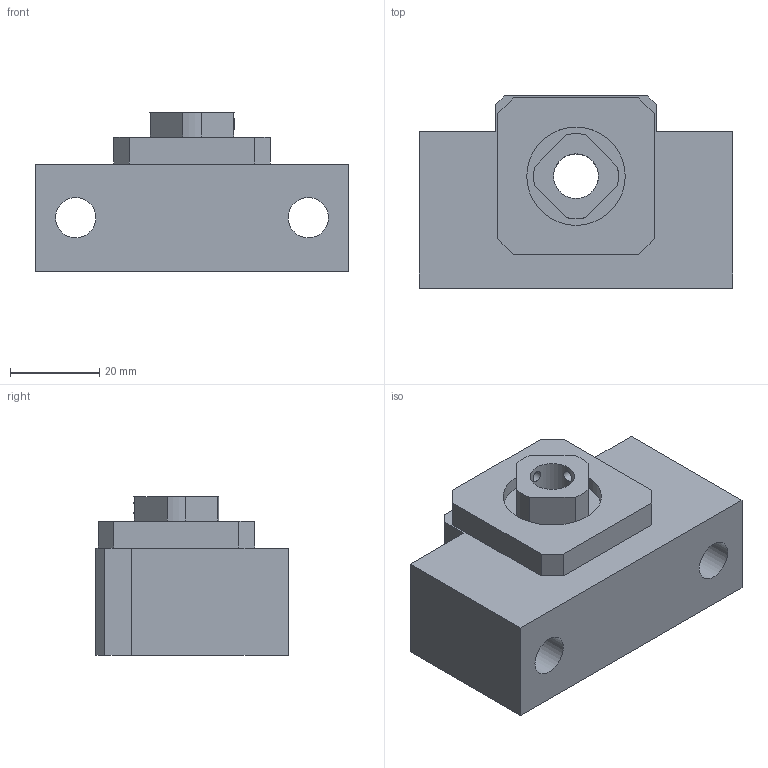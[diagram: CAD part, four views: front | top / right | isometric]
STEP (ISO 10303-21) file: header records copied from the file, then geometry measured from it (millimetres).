
FILE_DESCRIPTION(/* description */ (''),/* implementation_level */ '2;1');
FILE_NAME(/* name */ 'C:\Users\tenki620635\Desktop\官網\圖面\軸承座\3D\setp檔\AK10.stp',/* time_stamp */ '2020-12-18T18:31:38+08:00',/* author */ ('tenki620635'),/* organization */ (''),/* preprocessor_version */ 'ST-DEVELOPER v15.2',/* originating_system */ 'Autodesk Inventor 2014',/* authorisation */ '');
FILE_SCHEMA (('AUTOMOTIVE_DESIGN { 1 0 10303 214 3 1 1 }'));
Length unit declared in the file: millimetre
Products named in the file (1): AK10
Bounding box: 70 x 43 x 35.5 mm (x, y, z)
Volume: 64135.3 mm3; surface area: 15684.6 mm2
Topology: 1 solids, 1 shells, 49 faces, 120 edges, 81 vertices
Faces by surface type: plane 33, cylinder 16
Full cylindrical faces by diameter (mm): 2.459 x2, 9 x2, 10 x1, 13 x1, 14 x2, 15.5 x2, 22 x2
Entity records: 1519 total; most frequent: CARTESIAN_POINT 368, DIRECTION 226, ORIENTED_EDGE 208, EDGE_CURVE 104, EDGE_LOOP 80, VERTEX_POINT 78, AXIS2_PLACEMENT_3D 78, LINE 70
